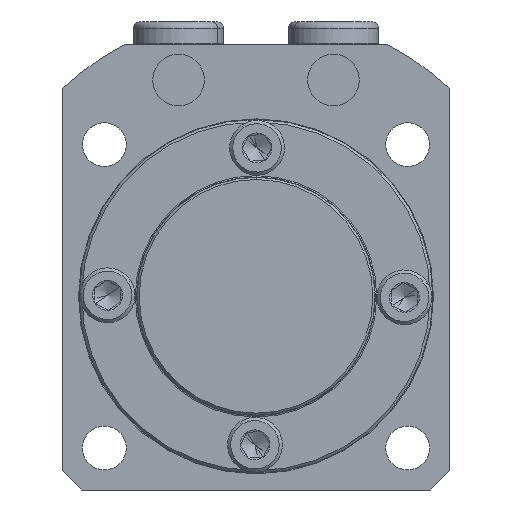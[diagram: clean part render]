
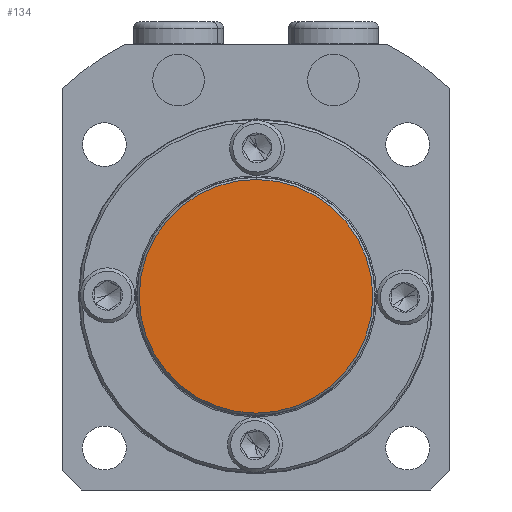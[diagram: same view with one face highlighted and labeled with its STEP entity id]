
A CAD part, front view. The second image highlights one B-rep face of the part: STEP entity #134.
In plain terms, the highlighted planar face has unit normal (0, -1, 0).
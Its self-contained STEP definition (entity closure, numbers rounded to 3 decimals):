
#72 = EDGE_CURVE ( 'NONE', #4190, #4196, #2320, .T. ) ;
#134 = ADVANCED_FACE ( 'NONE', ( #1792 ), #1793, .T. ) ;
#1329 = CARTESIAN_POINT ( 'NONE',  ( 0., -10., 18.1 ) ) ;
#1335 = CARTESIAN_POINT ( 'NONE',  ( 0., -10., -18.1 ) ) ;
#1462 = CARTESIAN_POINT ( 'NONE',  ( 0., -10., 0. ) ) ;
#1463 = DIRECTION ( 'NONE',  ( 0., -1., 0. ) ) ;
#1464 = DIRECTION ( 'NONE',  ( 0., 0., -1. ) ) ;
#1784 = CARTESIAN_POINT ( 'NONE',  ( 0., -10., 0. ) ) ;
#1792 = FACE_OUTER_BOUND ( 'NONE', #3641, .T. ) ;
#1793 = PLANE ( 'NONE',  #5358 ) ;
#1796 = DIRECTION ( 'NONE',  ( 0., -1., 0. ) ) ;
#1797 = DIRECTION ( 'NONE',  ( 0., 0., -1. ) ) ;
#2297 = AXIS2_PLACEMENT_3D ( 'NONE', #2340, #2341, #2342 ) ;
#2320 = CIRCLE ( 'NONE', #2297, 18.1 ) ;
#2340 = CARTESIAN_POINT ( 'NONE',  ( 0., -10., 0. ) ) ;
#2341 = DIRECTION ( 'NONE',  ( 0., -1., 0. ) ) ;
#2342 = DIRECTION ( 'NONE',  ( 0., 0., -1. ) ) ;
#3641 = EDGE_LOOP ( 'NONE', ( #3990, #3991 ) ) ;
#3990 = ORIENTED_EDGE ( 'NONE', *, *, #72, .T. ) ;
#3991 = ORIENTED_EDGE ( 'NONE', *, *, #5102, .T. ) ;
#4190 = VERTEX_POINT ( 'NONE', #1329 ) ;
#4196 = VERTEX_POINT ( 'NONE', #1335 ) ;
#4591 = CIRCLE ( 'NONE', #4597, 18.1 ) ;
#4597 = AXIS2_PLACEMENT_3D ( 'NONE', #1462, #1463, #1464 ) ;
#5102 = EDGE_CURVE ( 'NONE', #4196, #4190, #4591, .T. ) ;
#5358 = AXIS2_PLACEMENT_3D ( 'NONE', #1784, #1796, #1797 ) ;
